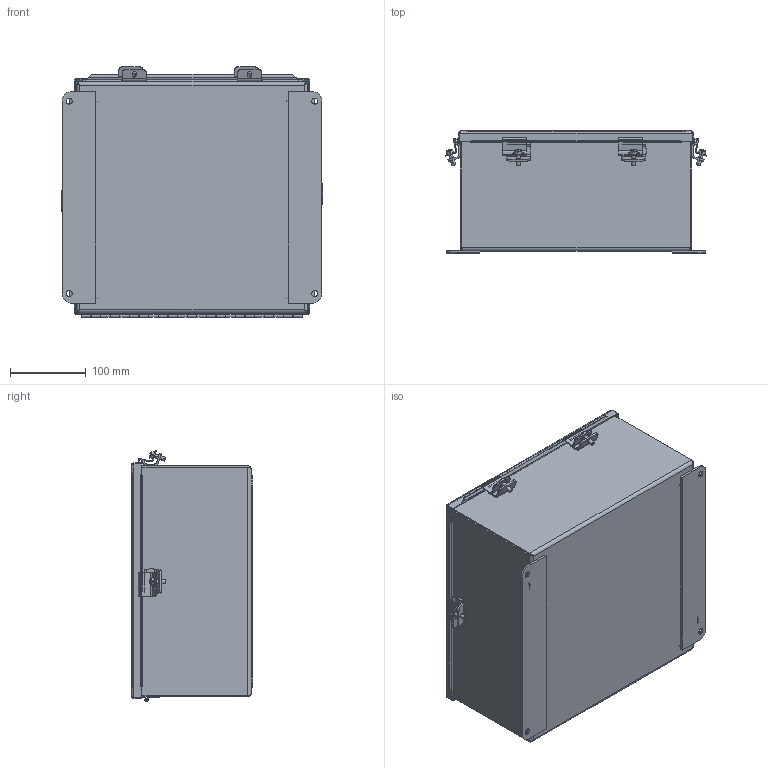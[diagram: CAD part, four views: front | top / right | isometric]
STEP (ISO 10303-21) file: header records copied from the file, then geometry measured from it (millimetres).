
FILE_DESCRIPTION (( 'STEP AP203' ), '1' );
FILE_NAME ('a1212chemss.STEP', '2012-07-16T17:17:12', ( 'User' ), ( 'Pentair Inc' ), 'SwSTEP 2.0', 'SolidWorks 2010', '' );
FILE_SCHEMA (( 'CONFIG_CONTROL_DESIGN' ));
Products named in the file (18): a1212chemss; 89070938_CLOSED STATE; 54302085; 89070937; 87413123; 99412037; 54178718_Def; 89070939; 89070940_87417756; 87750772; 54208023_54208023; 54106002; 54178018_Def; 54178318; 54181001; 87948669; 54180001; 54103006_54103006
Assembly tree (27 placements, depth 4):
  a1212chemss
    89070938_CLOSED STATE
      54178018_Def
      54178318
      54208023_54208023  x2
      54106002  x4
      54181001  x4
      54302085
      89070937
        89070940_87417756
        87413123
        54178718_Def
        87750772
        99412037
        89070939
    87948669  x4
      54103006_54103006
      54180001
Bounding box: 345.16 x 160.58 x 331.09 mm (x, y, z)
Volume: 843953.8 mm3; surface area: 965065.6 mm2
Topology: 27 solids, 27 shells, 1728 faces, 4584 edges, 2952 vertices
Faces by surface type: plane 814, bspline 584, cylinder 262, torus 42, sphere 16, cone 10
Entity records: 54243 total; most frequent: CARTESIAN_POINT 26353, ORIENTED_EDGE 6096, DIRECTION 3953, EDGE_CURVE 3048, VERTEX_POINT 1974, LINE 1789, VECTOR 1789, EDGE_LOOP 1196
